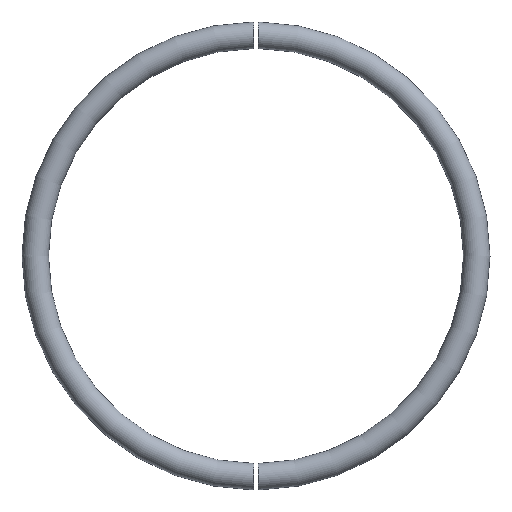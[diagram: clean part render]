
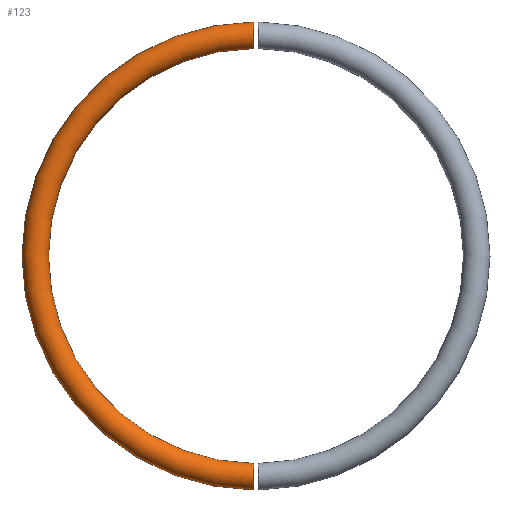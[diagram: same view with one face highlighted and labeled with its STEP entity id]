
A CAD part, top view. The second image highlights one B-rep face of the part: STEP entity #123.
In plain terms, the highlighted toroidal (fillet/blend) face has major radius 50 mm and minor radius 3 mm.
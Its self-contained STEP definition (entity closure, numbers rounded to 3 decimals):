
#31=CARTESIAN_POINT('Axis2P3D Location',(0.,0.,0.)) ;
#49=CARTESIAN_POINT('Vertex',(-0.5,46.997,0.)) ;
#51=CARTESIAN_POINT('Vertex',(-0.5,52.998,0.)) ;
#54=CARTESIAN_POINT('Axis2P3D Location',(0.,0.,0.)) ;
#58=CARTESIAN_POINT('Vertex',(-0.5,-46.997,0.)) ;
#74=CARTESIAN_POINT('Vertex',(-0.5,-52.998,0.)) ;
#77=CARTESIAN_POINT('Axis2P3D Location',(0.,0.,0.)) ;
#90=CARTESIAN_POINT('Control Point',(-0.5,46.997,0.)) ;
#91=CARTESIAN_POINT('Control Point',(-0.5,46.997,0.684)) ;
#92=CARTESIAN_POINT('Control Point',(-0.5,47.193,1.369)) ;
#93=CARTESIAN_POINT('Control Point',(-0.5,47.584,1.979)) ;
#94=CARTESIAN_POINT('Control Point',(-0.5,48.395,2.673)) ;
#95=CARTESIAN_POINT('Control Point',(-0.5,49.39,2.968)) ;
#96=CARTESIAN_POINT('Control Point',(-0.5,49.733,3.018)) ;
#97=CARTESIAN_POINT('Control Point',(-0.5,50.946,3.019)) ;
#98=CARTESIAN_POINT('Control Point',(-0.5,52.074,2.426)) ;
#99=CARTESIAN_POINT('Control Point',(-0.5,52.691,1.716)) ;
#100=CARTESIAN_POINT('Control Point',(-0.5,52.998,0.858)) ;
#101=CARTESIAN_POINT('Control Point',(-0.5,52.998,0.)) ;
#104=CARTESIAN_POINT('Control Point',(-0.5,-46.997,0.)) ;
#105=CARTESIAN_POINT('Control Point',(-0.5,-46.997,0.684)) ;
#106=CARTESIAN_POINT('Control Point',(-0.5,-47.193,1.369)) ;
#107=CARTESIAN_POINT('Control Point',(-0.5,-47.584,1.979)) ;
#108=CARTESIAN_POINT('Control Point',(-0.5,-48.395,2.673)) ;
#109=CARTESIAN_POINT('Control Point',(-0.5,-49.39,2.968)) ;
#110=CARTESIAN_POINT('Control Point',(-0.5,-49.733,3.018)) ;
#111=CARTESIAN_POINT('Control Point',(-0.5,-50.946,3.019)) ;
#112=CARTESIAN_POINT('Control Point',(-0.5,-52.074,2.426)) ;
#113=CARTESIAN_POINT('Control Point',(-0.5,-52.691,1.716)) ;
#114=CARTESIAN_POINT('Control Point',(-0.5,-52.998,0.858)) ;
#115=CARTESIAN_POINT('Control Point',(-0.5,-52.998,0.)) ;
#32=DIRECTION('Axis2P3D Direction',(0.,0.,1.)) ;
#33=DIRECTION('Axis2P3D XDirection',(0.,1.,0.)) ;
#55=DIRECTION('Axis2P3D Direction',(0.,0.,1.)) ;
#78=DIRECTION('Axis2P3D Direction',(0.,0.,1.)) ;
#34=AXIS2_PLACEMENT_3D('Torus Axis2P3D',#31,#32,#33) ;
#56=AXIS2_PLACEMENT_3D('Circle Axis2P3D',#54,#55,$) ;
#79=AXIS2_PLACEMENT_3D('Circle Axis2P3D',#77,#78,$) ;
#57=CIRCLE('generated circle',#56,47.) ;
#80=CIRCLE('generated circle',#79,53.) ;
#35=TOROIDAL_SURFACE('homeo Torus',#34,50.,3.) ;
#60=EDGE_CURVE('',#50,#59,#57,.T.) ;
#81=EDGE_CURVE('',#52,#75,#80,.T.) ;
#102=EDGE_CURVE('',#50,#52,#89,.T.) ;
#116=EDGE_CURVE('',#59,#75,#103,.T.) ;
#117=EDGE_LOOP('',(#118,#119,#120,#121)) ;
#118=ORIENTED_EDGE('',*,*,#102,.T.) ;
#119=ORIENTED_EDGE('',*,*,#81,.T.) ;
#120=ORIENTED_EDGE('',*,*,#116,.F.) ;
#121=ORIENTED_EDGE('',*,*,#60,.F.) ;
#50=VERTEX_POINT('',#49) ;
#52=VERTEX_POINT('',#51) ;
#59=VERTEX_POINT('',#58) ;
#75=VERTEX_POINT('',#74) ;
#123=ADVANCED_FACE('PartBody',(#122),#35,.T.) ;
#89=B_SPLINE_CURVE_WITH_KNOTS('',5,(#90,#91,#92,#93,#94,#95,#96,#97,#98,#99,#100,#101),.UNSPECIFIED.,.F.,.U.,(6,3,3,6),(0.,4.84,7.261,13.329),.UNSPECIFIED.) ;
#103=B_SPLINE_CURVE_WITH_KNOTS('',5,(#104,#105,#106,#107,#108,#109,#110,#111,#112,#113,#114,#115),.UNSPECIFIED.,.F.,.U.,(6,3,3,6),(0.,4.84,7.261,13.329),.UNSPECIFIED.) ;
#122=FACE_OUTER_BOUND('',#117,.T.) ;
